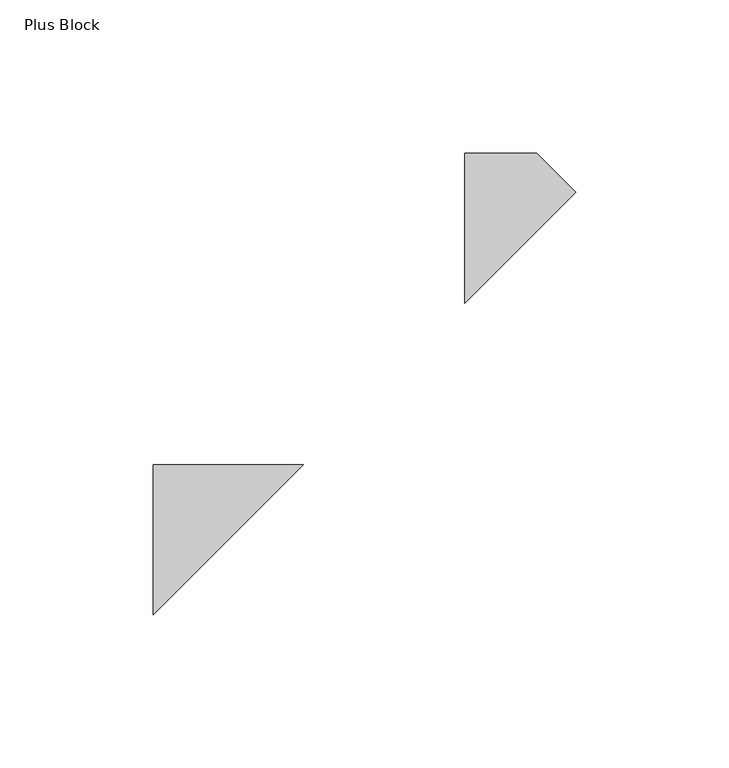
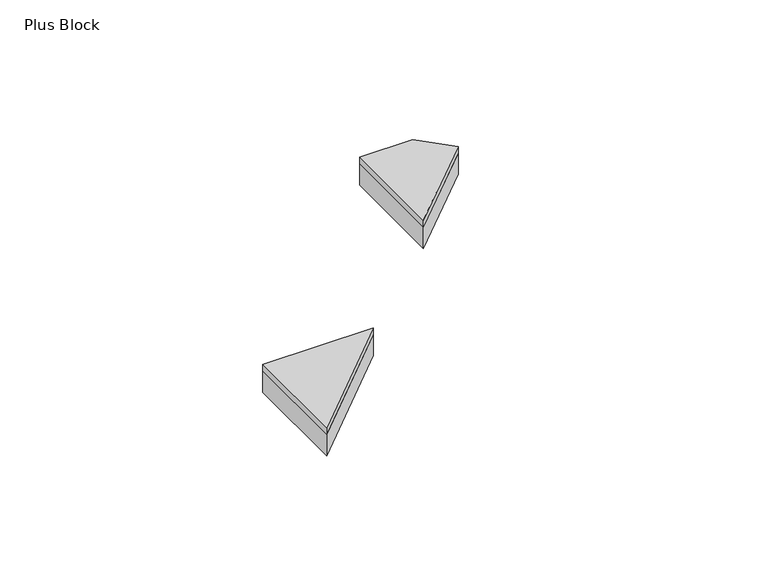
"""IFC4 building model written with IfcOpenShell, lengths in millimetres: proxy geometry, FilzFelt_Plus_Block : Plus Block."""

from ifc_helpers import new_model, si_unit, frame, origin, origin_with_axes, place, context, project, spatial, polyline, outline, extrude, source, transform, mapped, element, save


def plus_block_0ad3cf2a(model_context):
    return source(origin(), model_context, "Body", "SweptSolid", [
        extrude(outline(polyline([(-152.5, 1.7802978), (-152.5, 50.8333333), (-103.4469644, 50.8333333), (-152.5, 1.7802978)])), frame((0.0, 0.0, 10.0210937), z_axis=(0.0, 0.0, 1.0), x_axis=(1.0, 0.0, 0.0)), (0.0, 0.0, 1.0), 2.9765625),
        extrude(outline(polyline([(-50.8333333, 152.5), (-27.2541128, 152.5), (-14.5172053, 139.7630925), (-50.8333333, 103.4469644), (-50.8333333, 152.5)])), frame((0.0, 0.0, 10.0210937), z_axis=(0.0, 0.0, 1.0), x_axis=(1.0, 0.0, 0.0)), (0.0, 0.0, 1.0), 2.9765625),
        extrude(outline(polyline([(-152.5, 1.7802978), (-152.5, 50.8333333), (-103.4469644, 50.8333333), (-152.5, 1.7802978)])), origin_with_axes(), (0.0, 0.0, 1.0), 10.0210938),
        extrude(outline(polyline([(-50.8333333, 152.5), (-27.2541128, 152.5), (-14.5172053, 139.7630925), (-50.8333333, 103.4469644), (-50.8333333, 152.5)])), origin_with_axes(), (0.0, 0.0, 1.0), 10.0210938),
    ])


if __name__ == "__main__":
    model = new_model("IFC4")
    model_context = context("Model", 3, world=origin())
    ifc_project = project(units=[si_unit("LENGTHUNIT", "METRE", prefix="MILLI")], contexts=[model_context])
    site = spatial("IfcSite", under=ifc_project)
    building = spatial("IfcBuilding", under=site)
    placement = place(None, origin())
    plus_block_shape = plus_block_0ad3cf2a(model_context)
    element("IfcBuildingElementProxy", 1, Name="FilzFelt_Plus_Block : Plus Block", ObjectType="FilzFelt_Plus_Block : Plus Block", at=placement, inside=building, context=model_context, shape_type="MappedRepresentation", body=[
        mapped(plus_block_shape, transform((0.0, 0.0, 0.0), x_axis=(1.0, 0.0, 0.0), y_axis=(0.0, 1.0, 0.0), z_axis=(0.0, 0.0, 1.0))),
    ])
    save(model, "model.ifc")
